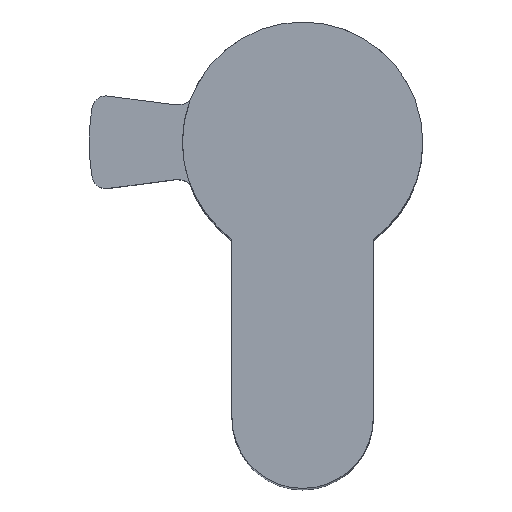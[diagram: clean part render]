
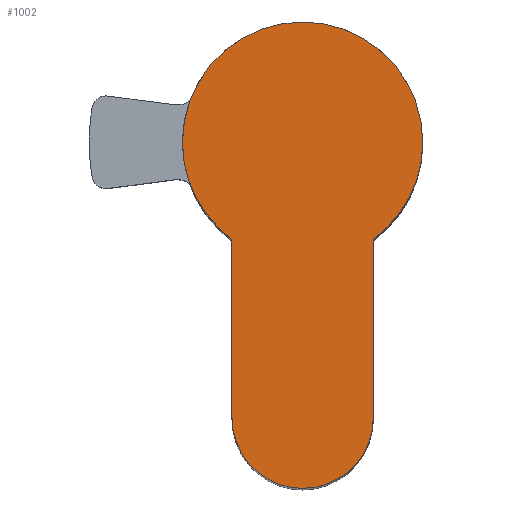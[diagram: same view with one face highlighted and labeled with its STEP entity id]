
A CAD part, top view. The second image highlights one B-rep face of the part: STEP entity #1002.
In plain terms, the highlighted planar face has unit normal (0, 0, 1).
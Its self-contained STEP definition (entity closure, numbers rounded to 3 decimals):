
#10 = CARTESIAN_POINT ( 'NONE',  ( -5., -19.5, 10. ) ) ;
#24 = DIRECTION ( 'NONE',  ( 0., 1., 0. ) ) ;
#43 = CARTESIAN_POINT ( 'NONE',  ( 0., 0., 10. ) ) ;
#51 = VERTEX_POINT ( 'NONE', #1466 ) ;
#55 = CARTESIAN_POINT ( 'NONE',  ( -8.5, 0., 10. ) ) ;
#75 = DIRECTION ( 'NONE',  ( 1., 0., 0. ) ) ;
#89 = CIRCLE ( 'NONE', #322, 8.5 ) ;
#114 = ORIENTED_EDGE ( 'NONE', *, *, #694, .T. ) ;
#163 = FACE_OUTER_BOUND ( 'NONE', #1488, .T. ) ;
#216 = AXIS2_PLACEMENT_3D ( 'NONE', #43, #792, #535 ) ;
#291 = ORIENTED_EDGE ( 'NONE', *, *, #471, .T. ) ;
#322 = AXIS2_PLACEMENT_3D ( 'NONE', #1109, #365, #1371 ) ;
#346 = CARTESIAN_POINT ( 'NONE',  ( 8.5, 0., 10. ) ) ;
#357 = LINE ( 'NONE', #1106, #922 ) ;
#365 = DIRECTION ( 'NONE',  ( 0., 0., 1. ) ) ;
#386 = EDGE_CURVE ( 'NONE', #910, #468, #1275, .T. ) ;
#394 = DIRECTION ( 'NONE',  ( 0., 0., 1. ) ) ;
#397 = CIRCLE ( 'NONE', #916, 8.5 ) ;
#401 = AXIS2_PLACEMENT_3D ( 'NONE', #690, #1451, #588 ) ;
#468 = VERTEX_POINT ( 'NONE', #853 ) ;
#471 = EDGE_CURVE ( 'NONE', #960, #51, #89, .T. ) ;
#510 = EDGE_CURVE ( 'NONE', #468, #1176, #1125, .T. ) ;
#535 = DIRECTION ( 'NONE',  ( 1., 0., 0. ) ) ;
#588 = DIRECTION ( 'NONE',  ( 1., 0., 0. ) ) ;
#683 = VECTOR ( 'NONE', #24, 1000. ) ;
#685 = CARTESIAN_POINT ( 'NONE',  ( 5., -6.874, 10. ) ) ;
#690 = CARTESIAN_POINT ( 'NONE',  ( 0., -19.5, 10. ) ) ;
#694 = EDGE_CURVE ( 'NONE', #1176, #1266, #1019, .T. ) ;
#751 = DIRECTION ( 'NONE',  ( 0., -1., 0. ) ) ;
#792 = DIRECTION ( 'NONE',  ( 0., 0., 1. ) ) ;
#812 = EDGE_CURVE ( 'NONE', #51, #910, #357, .T. ) ;
#849 = ORIENTED_EDGE ( 'NONE', *, *, #510, .T. ) ;
#853 = CARTESIAN_POINT ( 'NONE',  ( 5., -19.5, 10. ) ) ;
#855 = ORIENTED_EDGE ( 'NONE', *, *, #1009, .T. ) ;
#890 = DIRECTION ( 'NONE',  ( 1., 0., 0. ) ) ;
#910 = VERTEX_POINT ( 'NONE', #10 ) ;
#916 = AXIS2_PLACEMENT_3D ( 'NONE', #1274, #394, #890 ) ;
#922 = VECTOR ( 'NONE', #751, 1000. ) ;
#960 = VERTEX_POINT ( 'NONE', #55 ) ;
#1002 = ADVANCED_FACE ( 'NONE', ( #163 ), #1138, .T. ) ;
#1006 = CARTESIAN_POINT ( 'NONE',  ( 5., -19.5, 10. ) ) ;
#1009 = EDGE_CURVE ( 'NONE', #1266, #960, #397, .T. ) ;
#1019 = CIRCLE ( 'NONE', #1066, 8.5 ) ;
#1066 = AXIS2_PLACEMENT_3D ( 'NONE', #1323, #1434, #75 ) ;
#1106 = CARTESIAN_POINT ( 'NONE',  ( -5., -6.874, 10. ) ) ;
#1109 = CARTESIAN_POINT ( 'NONE',  ( 0., 0., 10. ) ) ;
#1125 = LINE ( 'NONE', #1006, #683 ) ;
#1138 = PLANE ( 'NONE',  #216 ) ;
#1176 = VERTEX_POINT ( 'NONE', #685 ) ;
#1266 = VERTEX_POINT ( 'NONE', #346 ) ;
#1274 = CARTESIAN_POINT ( 'NONE',  ( 0., 0., 10. ) ) ;
#1275 = CIRCLE ( 'NONE', #401, 5. ) ;
#1323 = CARTESIAN_POINT ( 'NONE',  ( 0., 0., 10. ) ) ;
#1370 = ORIENTED_EDGE ( 'NONE', *, *, #386, .T. ) ;
#1371 = DIRECTION ( 'NONE',  ( 1., 0., 0. ) ) ;
#1434 = DIRECTION ( 'NONE',  ( 0., 0., 1. ) ) ;
#1451 = DIRECTION ( 'NONE',  ( 0., 0., 1. ) ) ;
#1466 = CARTESIAN_POINT ( 'NONE',  ( -5., -6.874, 10. ) ) ;
#1488 = EDGE_LOOP ( 'NONE', ( #114, #855, #291, #1548, #1370, #849 ) ) ;
#1548 = ORIENTED_EDGE ( 'NONE', *, *, #812, .T. ) ;
